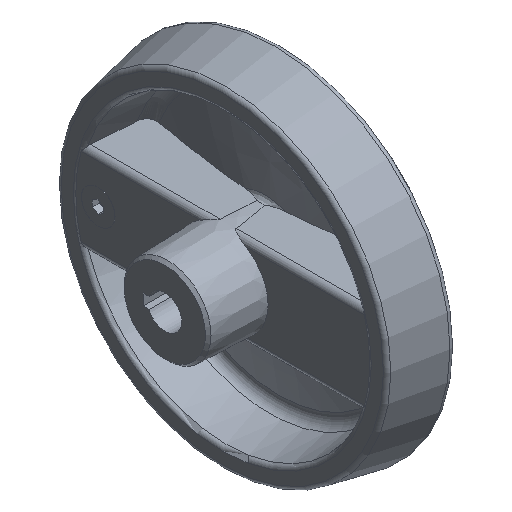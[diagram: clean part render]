
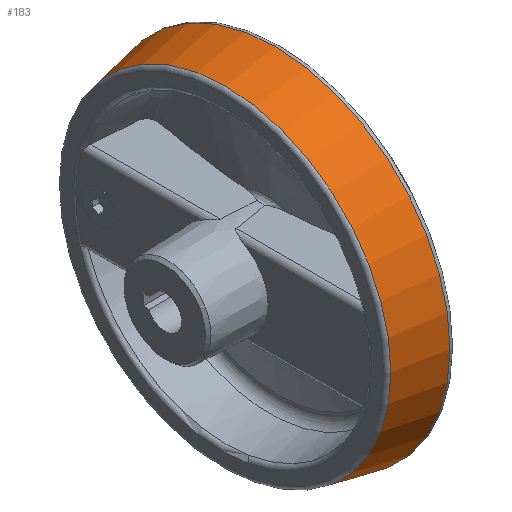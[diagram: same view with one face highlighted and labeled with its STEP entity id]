
A CAD part, isometric view. The second image highlights one B-rep face of the part: STEP entity #183.
In plain terms, the highlighted conical face has half-angle 10.934 degrees and reference radius 59.051 mm.
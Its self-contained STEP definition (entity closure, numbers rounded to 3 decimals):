
#183 = ADVANCED_FACE( '', ( #316, #317 ), #318, .T. );
#316 = FACE_OUTER_BOUND( '', #602, .T. );
#317 = FACE_BOUND( '', #603, .T. );
#318 = CONICAL_SURFACE( '', #604, 59.051, 0.191 );
#602 = EDGE_LOOP( '', ( #1058 ) );
#603 = EDGE_LOOP( '', ( #1059 ) );
#604 = AXIS2_PLACEMENT_3D( '', #1060, #1061, #1062 );
#1058 = ORIENTED_EDGE( '', *, *, #1787, .F. );
#1059 = ORIENTED_EDGE( '', *, *, #1790, .T. );
#1060 = CARTESIAN_POINT( '', ( 21.715, 0., 0. ) );
#1061 = DIRECTION( '', ( 1., 0., 0. ) );
#1062 = DIRECTION( '', ( 0., 0., -1. ) );
#1787 = EDGE_CURVE( '', #2075, #2075, #2076, .T. );
#1790 = EDGE_CURVE( '', #2081, #2081, #2082, .T. );
#2075 = VERTEX_POINT( '', #2653 );
#2076 = CIRCLE( '', #2654, 62.473 );
#2081 = VERTEX_POINT( '', #2659 );
#2082 = CIRCLE( '', #2660, 59.051 );
#2653 = CARTESIAN_POINT( '', ( 39.427, 0., -62.473 ) );
#2654 = AXIS2_PLACEMENT_3D( '', #3312, #3313, #3314 );
#2659 = CARTESIAN_POINT( '', ( 21.715, 0., -59.051 ) );
#2660 = AXIS2_PLACEMENT_3D( '', #3321, #3322, #3323 );
#3312 = CARTESIAN_POINT( '', ( 39.427, 0., 0. ) );
#3313 = DIRECTION( '', ( 1., 0., 0. ) );
#3314 = DIRECTION( '', ( 0., 0., -1. ) );
#3321 = CARTESIAN_POINT( '', ( 21.715, 0., 0. ) );
#3322 = DIRECTION( '', ( 1., 0., 0. ) );
#3323 = DIRECTION( '', ( 0., 0., -1. ) );
